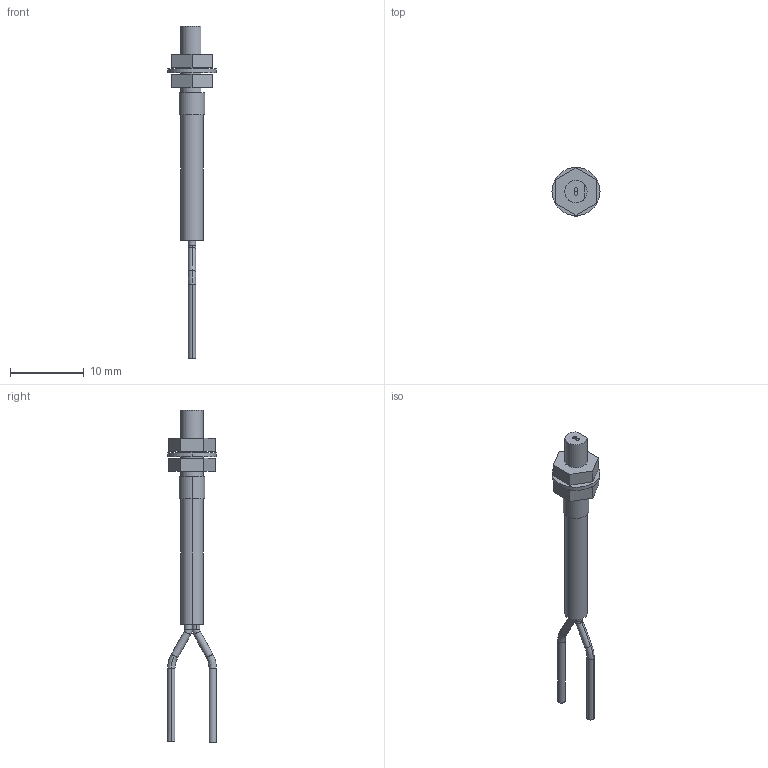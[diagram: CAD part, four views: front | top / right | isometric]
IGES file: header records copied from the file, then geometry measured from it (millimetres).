
Start section: SolidWorks IGES FILE using analytic representation for surfaces
Global section: file name: C:\Documents and Settings\yk0651\デスクトップ\3D_catalog_050904\0_IGES\FD-T40.IGS; native system: SolidWorks 2004 by SolidWorks Corporation; preprocessor: Version 5.3; author: yk0651; date: 050904.192123; units: millimetre
Bounding box: 6.5 x 6.6 x 44.91 mm (x, y, z)
Volume: 317.1 mm3; surface area: 646 mm2
Topology: 4 solids, 4 shells, 64 faces, 138 edges, 88 vertices
Faces by surface type: revolution 33, plane 27, bspline 4
